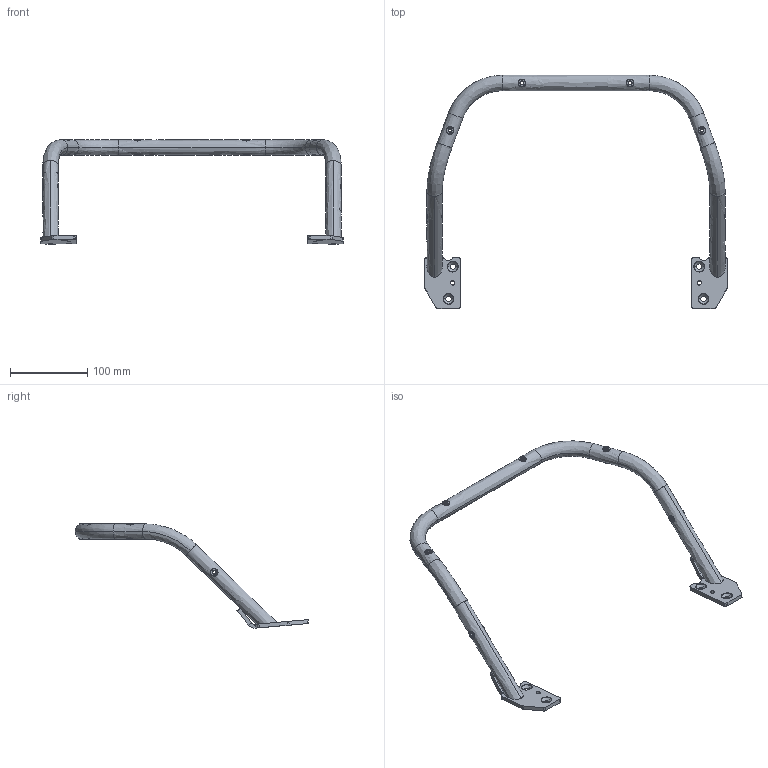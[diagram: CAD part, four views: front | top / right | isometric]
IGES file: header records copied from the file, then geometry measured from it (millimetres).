
Start section: SolidWorks IGES file using analytic representation for surfaces
Global section: file name: D:\Hans-Work\ev1-opensource\open source\interface pack\Luggage Rack Accessory Interface\Rear-rack.IGS; native system: SolidWorks 2023; preprocessor: SolidWorks 2023; author: hans.cai; date: 260408.113752; units: millimetre
Bounding box: 391 x 301.99 x 135 mm (x, y, z)
Volume: 130046.5 mm3; surface area: 115570.8 mm2
Topology: 9 solids, 9 shells, 261 faces, 654 edges, 415 vertices
Faces by surface type: revolution 189, plane 56, bspline 16
